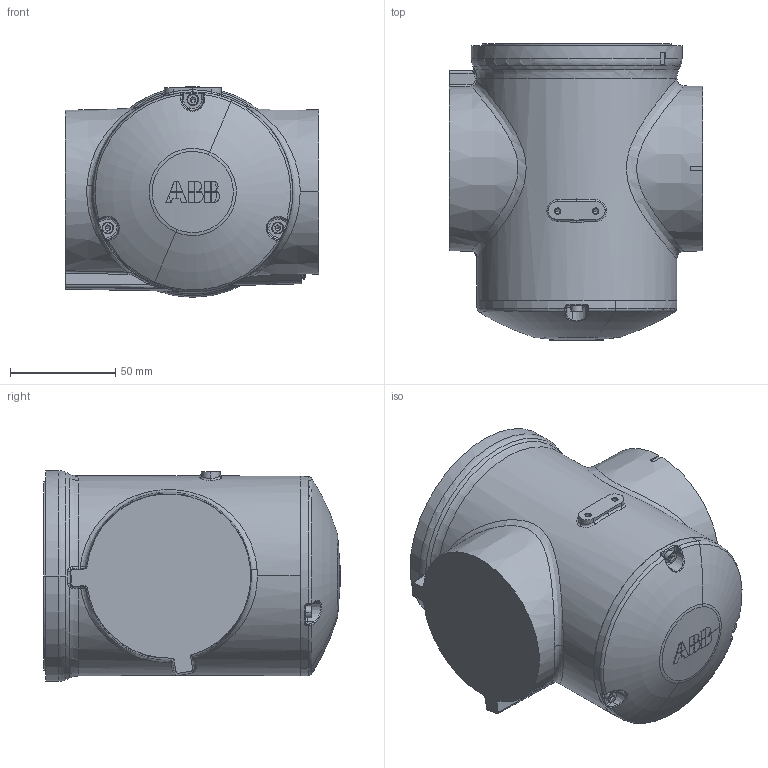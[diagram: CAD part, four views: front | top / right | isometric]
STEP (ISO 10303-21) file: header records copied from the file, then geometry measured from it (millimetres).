
FILE_DESCRIPTION (( 'STEP AP214' ), '1' );
FILE_NAME ('Link3.STEP', '2022-06-21T02:14:21', ( '' ), ( '' ), 'SwSTEP 2.0', 'SolidWorks 2020', '' );
FILE_SCHEMA (( 'AUTOMOTIVE_DESIGN' ));
Length unit declared in the file: millimetre
Products named in the file (1): Link3
Bounding box: 120.3 x 140.86 x 100 mm (x, y, z)
Volume: 1117344.6 mm3; surface area: 65736.2 mm2
Topology: 1 solids, 1 shells, 336 faces, 815 edges, 496 vertices
Faces by surface type: plane 141, bspline 79, cylinder 45, cone 39, torus 31, sphere 1
Entity records: 17075 total; most frequent: CARTESIAN_POINT 9019, ORIENTED_EDGE 1604, DIRECTION 1397, EDGE_CURVE 802, AXIS2_PLACEMENT_3D 547, VERTEX_POINT 494, EDGE_LOOP 362, FACE_OUTER_BOUND 336
